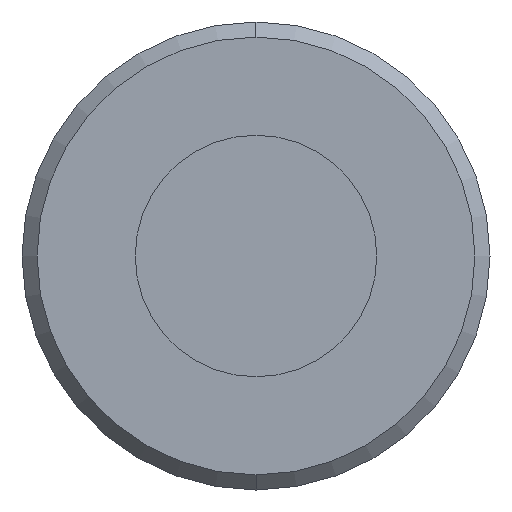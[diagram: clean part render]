
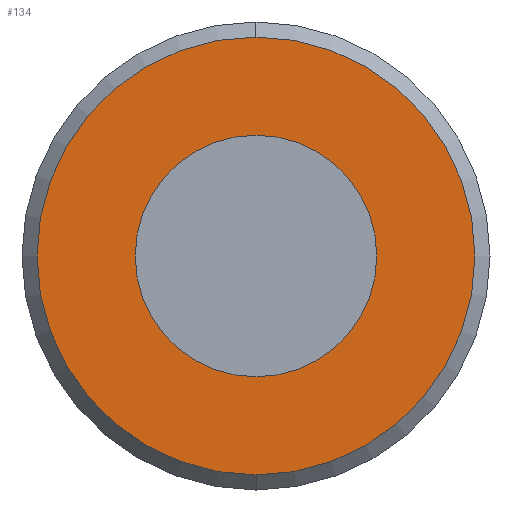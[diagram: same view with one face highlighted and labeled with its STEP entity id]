
A CAD part, left-side view. The second image highlights one B-rep face of the part: STEP entity #134.
In plain terms, the highlighted planar face has unit normal (-1, 0, 0).
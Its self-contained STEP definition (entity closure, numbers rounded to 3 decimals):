
#10 = VERTEX_POINT ( 'NONE', #911 ) ;
#21 = VERTEX_POINT ( 'NONE', #281 ) ;
#38 = PLANE ( 'NONE',  #1035 ) ;
#111 = CARTESIAN_POINT ( 'NONE',  ( 89., 14.5, 0. ) ) ;
#134 = ADVANCED_FACE ( 'NONE', ( #488, #851 ), #38, .F. ) ;
#141 = EDGE_LOOP ( 'NONE', ( #967, #661 ) ) ;
#160 = CARTESIAN_POINT ( 'NONE',  ( 89., 0., 0. ) ) ;
#231 = DIRECTION ( 'NONE',  ( 0., 0., 1. ) ) ;
#248 = AXIS2_PLACEMENT_3D ( 'NONE', #1024, #864, #542 ) ;
#250 = CIRCLE ( 'NONE', #248, 14.5 ) ;
#267 = DIRECTION ( 'NONE',  ( 1., 0., 0. ) ) ;
#281 = CARTESIAN_POINT ( 'NONE',  ( 89., 0., -8. ) ) ;
#293 = DIRECTION ( 'NONE',  ( 0., 0., 1. ) ) ;
#341 = EDGE_CURVE ( 'NONE', #21, #10, #638, .T. ) ;
#447 = VERTEX_POINT ( 'NONE', #803 ) ;
#488 = FACE_BOUND ( 'NONE', #710, .T. ) ;
#502 = AXIS2_PLACEMENT_3D ( 'NONE', #1023, #784, #293 ) ;
#542 = DIRECTION ( 'NONE',  ( 0., 0., 1. ) ) ;
#592 = CARTESIAN_POINT ( 'NONE',  ( 89., 0., -14.5 ) ) ;
#596 = ORIENTED_EDGE ( 'NONE', *, *, #1000, .F. ) ;
#615 = DIRECTION ( 'NONE',  ( -1., 0., 0. ) ) ;
#638 = CIRCLE ( 'NONE', #502, 8. ) ;
#655 = AXIS2_PLACEMENT_3D ( 'NONE', #768, #615, #698 ) ;
#660 = CIRCLE ( 'NONE', #766, 8. ) ;
#661 = ORIENTED_EDGE ( 'NONE', *, *, #899, .T. ) ;
#663 = VERTEX_POINT ( 'NONE', #592 ) ;
#698 = DIRECTION ( 'NONE',  ( 0., 0., 1. ) ) ;
#710 = EDGE_LOOP ( 'NONE', ( #596, #832 ) ) ;
#745 = EDGE_CURVE ( 'NONE', #663, #447, #947, .T. ) ;
#766 = AXIS2_PLACEMENT_3D ( 'NONE', #160, #970, #231 ) ;
#768 = CARTESIAN_POINT ( 'NONE',  ( 89., 0., 0. ) ) ;
#784 = DIRECTION ( 'NONE',  ( -1., 0., 0. ) ) ;
#803 = CARTESIAN_POINT ( 'NONE',  ( 89., 0., 14.5 ) ) ;
#832 = ORIENTED_EDGE ( 'NONE', *, *, #341, .F. ) ;
#850 = DIRECTION ( 'NONE',  ( 0., 0., -1. ) ) ;
#851 = FACE_OUTER_BOUND ( 'NONE', #141, .T. ) ;
#864 = DIRECTION ( 'NONE',  ( -1., 0., 0. ) ) ;
#899 = EDGE_CURVE ( 'NONE', #447, #663, #250, .T. ) ;
#911 = CARTESIAN_POINT ( 'NONE',  ( 89., 0., 8. ) ) ;
#947 = CIRCLE ( 'NONE', #655, 14.5 ) ;
#967 = ORIENTED_EDGE ( 'NONE', *, *, #745, .T. ) ;
#970 = DIRECTION ( 'NONE',  ( -1., 0., 0. ) ) ;
#1000 = EDGE_CURVE ( 'NONE', #10, #21, #660, .T. ) ;
#1023 = CARTESIAN_POINT ( 'NONE',  ( 89., 0., 0. ) ) ;
#1024 = CARTESIAN_POINT ( 'NONE',  ( 89., 0., 0. ) ) ;
#1035 = AXIS2_PLACEMENT_3D ( 'NONE', #111, #267, #850 ) ;
